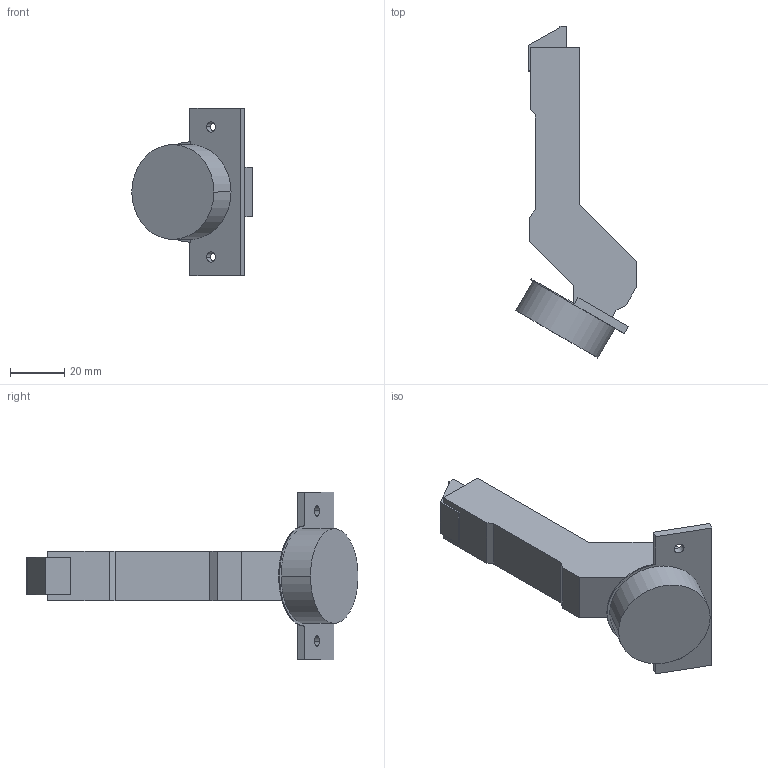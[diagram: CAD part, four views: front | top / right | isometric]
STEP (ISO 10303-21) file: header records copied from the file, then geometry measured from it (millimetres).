
FILE_DESCRIPTION (( 'STEP AP214' ), '1' );
FILE_NAME ('Scharnier TT Click-on 110°_+30° M_BB, einliegend.step', '2010-12-13T10:21:22', ( 'grass' ), ( '' ), 'SwSTEP 2.0', 'SolidWorks 2010', '' );
FILE_SCHEMA (( 'AUTOMOTIVE_DESIGN' ));
Length unit declared in the file: millimetre
Products named in the file (1): Scharnier TT Click-on 110°_+30° M_BB, einliegend
Bounding box: 44.44 x 122.51 x 62 mm (x, y, z)
Volume: 53055.3 mm3; surface area: 13916.1 mm2
Topology: 1 solids, 1 shells, 52 faces, 138 edges, 92 vertices
Faces by surface type: plane 38, cylinder 14
Entity records: 1652 total; most frequent: CARTESIAN_POINT 283, ORIENTED_EDGE 276, DIRECTION 272, EDGE_CURVE 138, LINE 110, VECTOR 110, VERTEX_POINT 92, AXIS2_PLACEMENT_3D 81
